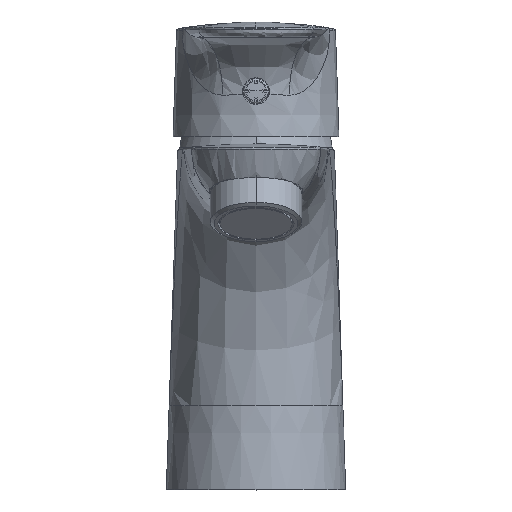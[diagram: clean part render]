
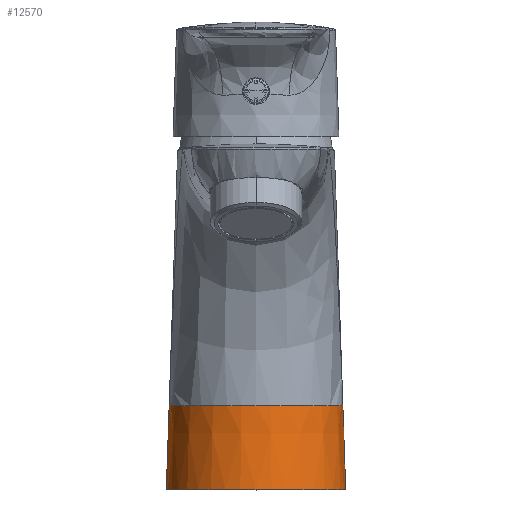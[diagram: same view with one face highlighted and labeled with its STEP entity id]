
A CAD part, top view. The second image highlights one B-rep face of the part: STEP entity #12570.
In plain terms, the highlighted conical face has half-angle 1.909 degrees and reference radius 22.016 mm.
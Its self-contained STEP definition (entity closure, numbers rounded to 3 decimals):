
#1383=CARTESIAN_POINT('',(0.,0.,0.));
#1384=DIRECTION('',(0.,-1.,0.));
#1385=DIRECTION('',(1.,0.,0.));
#1386=AXIS2_PLACEMENT_3D('',#1383,#1384,#1385);
#1388=CARTESIAN_POINT('',(0.,89.,0.));
#1389=DIRECTION('',(0.,-1.,0.));
#1390=DIRECTION('',(-0.999,0.,0.037));
#1391=AXIS2_PLACEMENT_3D('',#1388,#1389,#1390);
#1393=CARTESIAN_POINT('',(-22.732,22.664,
0.755));
#1394=CARTESIAN_POINT('',(-22.486,30.035,
0.756));
#1395=CARTESIAN_POINT('',(-21.994,44.776,
0.755));
#1396=CARTESIAN_POINT('',(-21.257,66.888,
0.755));
#1397=CARTESIAN_POINT('',(-20.765,81.629,
0.755));
#1398=CARTESIAN_POINT('',(-20.519,89.,0.755));
#1400=CARTESIAN_POINT('',(-22.754,21.983,
0.756));
#1401=CARTESIAN_POINT('',(-22.752,22.057,
0.755));
#1402=CARTESIAN_POINT('',(-22.747,22.205,
0.755));
#1403=CARTESIAN_POINT('',(-22.739,22.432,
0.755));
#1404=CARTESIAN_POINT('',(-22.734,22.586,
0.755));
#1405=CARTESIAN_POINT('',(-22.732,22.664,
0.755));
#1407=CARTESIAN_POINT('',(0.,21.983,0.));
#1408=DIRECTION('',(0.,1.,0.));
#1409=DIRECTION('',(-0.999,0.,0.033));
#1410=AXIS2_PLACEMENT_3D('',#1407,#1408,#1409);
#1412=CARTESIAN_POINT('',(22.754,21.983,0.756));
#1413=CARTESIAN_POINT('',(22.752,22.048,0.755));
#1414=CARTESIAN_POINT('',(22.748,22.179,0.755));
#1415=CARTESIAN_POINT('',(22.741,22.379,0.755));
#1416=CARTESIAN_POINT('',(22.737,22.514,0.755));
#1417=CARTESIAN_POINT('',(22.734,22.583,0.755));
#1419=CARTESIAN_POINT('',(20.519,89.,0.755));
#1420=CARTESIAN_POINT('',(20.765,81.62,0.755));
#1421=CARTESIAN_POINT('',(21.258,66.861,0.755));
#1422=CARTESIAN_POINT('',(21.996,44.722,0.754));
#1423=CARTESIAN_POINT('',(22.488,29.962,0.756));
#1424=CARTESIAN_POINT('',(22.734,22.583,0.755));
#1426=CARTESIAN_POINT('',(0.,89.,0.));
#1427=DIRECTION('',(0.,-1.,0.));
#1428=DIRECTION('',(1.,0.,0.));
#1429=AXIS2_PLACEMENT_3D('',#1426,#1427,#1428);
#1431=DIRECTION('',(-0.033,0.999,0.));
#1432=VECTOR('',#1431,89.049);
#1433=CARTESIAN_POINT('',(23.5,0.,0.));
#1434=LINE('',#1433,#1432);
#1455=DIRECTION('',(0.033,0.999,0.));
#1456=VECTOR('',#1455,89.049);
#1457=CARTESIAN_POINT('',(-23.5,0.,0.));
#1458=LINE('',#1457,#1456);
#10319=VERTEX_POINT('',#1400);
#10320=VERTEX_POINT('',#1405);
#10321=CARTESIAN_POINT('',(22.754,21.983,
0.756));
#10322=VERTEX_POINT('',#10321);
#10323=VERTEX_POINT('',#1417);
#10344=CARTESIAN_POINT('',(23.5,0.,0.));
#10345=CARTESIAN_POINT('',(20.533,89.,0.));
#10346=VERTEX_POINT('',#10344);
#10347=VERTEX_POINT('',#10345);
#10348=CARTESIAN_POINT('',(-23.5,0.,0.));
#10349=CARTESIAN_POINT('',(-20.533,89.,0.));
#10350=VERTEX_POINT('',#10348);
#10351=VERTEX_POINT('',#10349);
#10352=VERTEX_POINT('',#1419);
#10353=VERTEX_POINT('',#1398);
#12545=CARTESIAN_POINT('',(0.,44.5,0.));
#12546=DIRECTION('',(0.,-1.,0.));
#12547=DIRECTION('',(1.,0.,0.));
#12548=AXIS2_PLACEMENT_3D('',#12545,#12546,#12547);
#12549=CONICAL_SURFACE('',#12548,22.016,1.909);
#12551=ORIENTED_EDGE('',*,*,#12550,.T.);
#12553=ORIENTED_EDGE('',*,*,#12552,.T.);
#12554=ORIENTED_EDGE('',*,*,#12519,.F.);
#12556=ORIENTED_EDGE('',*,*,#12555,.F.);
#12558=ORIENTED_EDGE('',*,*,#12557,.F.);
#12560=ORIENTED_EDGE('',*,*,#12559,.T.);
#12562=ORIENTED_EDGE('',*,*,#12561,.T.);
#12564=ORIENTED_EDGE('',*,*,#12563,.F.);
#12565=ORIENTED_EDGE('',*,*,#12511,.F.);
#12567=ORIENTED_EDGE('',*,*,#12566,.F.);
#12568=EDGE_LOOP('',(#12551,#12553,#12554,#12556,#12558,#12560,#12562,#12564,
#12565,#12567));
#12569=FACE_OUTER_BOUND('',#12568,.F.);
#12570=ADVANCED_FACE('',(#12569),#12549,.T.);
#1387=CIRCLE('',#1386,23.5);
#1392=CIRCLE('',#1391,20.533);
#1399=B_SPLINE_CURVE_WITH_KNOTS('',3,(#1393,#1394,#1395,#1396,#1397,#1398),
.UNSPECIFIED.,.F.,.F.,(4,1,1,4),(0.,0.333,0.667,1.),
.UNSPECIFIED.);
#1406=B_SPLINE_CURVE_WITH_KNOTS('',3,(#1400,#1401,#1402,#1403,#1404,#1405),
.UNSPECIFIED.,.F.,.F.,(4,1,1,4),(0.,0.333,0.667,1.),
.UNSPECIFIED.);
#1411=CIRCLE('',#1410,22.767);
#1418=B_SPLINE_CURVE_WITH_KNOTS('',3,(#1412,#1413,#1414,#1415,#1416,#1417),
.UNSPECIFIED.,.F.,.F.,(4,1,1,4),(0.,0.333,0.667,1.),
.UNSPECIFIED.);
#1425=B_SPLINE_CURVE_WITH_KNOTS('',3,(#1419,#1420,#1421,#1422,#1423,#1424),
.UNSPECIFIED.,.F.,.F.,(4,1,1,4),(0.,0.333,0.667,1.),
.UNSPECIFIED.);
#1430=CIRCLE('',#1429,20.533);
#12511=EDGE_CURVE('',#10347,#10352,#1430,.T.);
#12519=EDGE_CURVE('',#10353,#10351,#1392,.T.);
#12550=EDGE_CURVE('',#10346,#10350,#1387,.T.);
#12552=EDGE_CURVE('',#10350,#10351,#1458,.T.);
#12555=EDGE_CURVE('',#10320,#10353,#1399,.T.);
#12557=EDGE_CURVE('',#10319,#10320,#1406,.T.);
#12559=EDGE_CURVE('',#10319,#10322,#1411,.T.);
#12561=EDGE_CURVE('',#10322,#10323,#1418,.T.);
#12563=EDGE_CURVE('',#10352,#10323,#1425,.T.);
#12566=EDGE_CURVE('',#10346,#10347,#1434,.T.);
